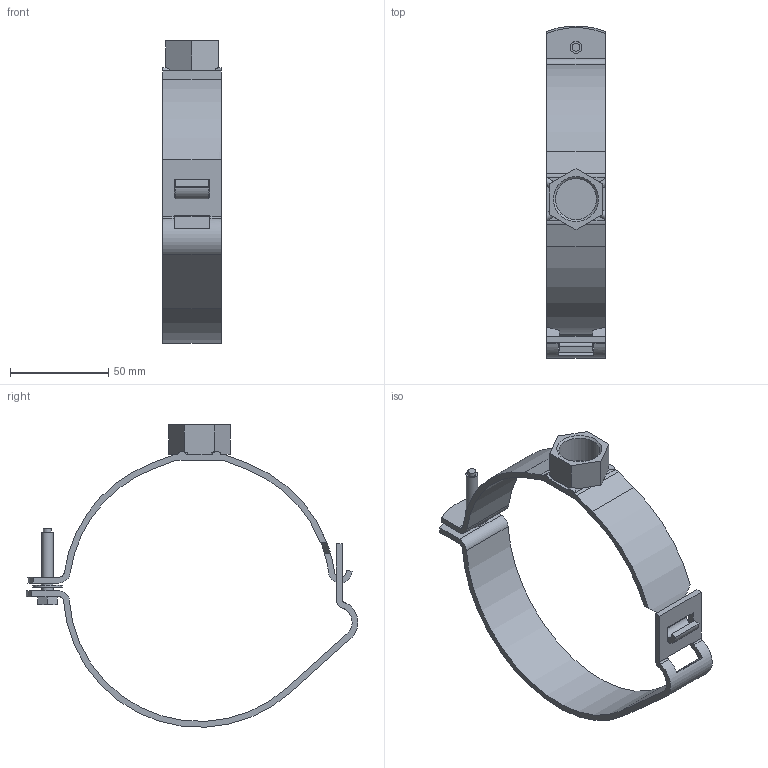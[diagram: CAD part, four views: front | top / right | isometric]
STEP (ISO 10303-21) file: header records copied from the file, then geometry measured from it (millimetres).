
FILE_DESCRIPTION(/* description */ (''),/* implementation_level */ '2;1');
FILE_NAME(/* name */ 'H:\Geberit-Teile\Export\368.841.00.2\stp\368841.stp',/* time_stamp */ '2016-03-14T12:19:13+01:00',/* author */ ('seihe2'),/* organization */ (''),/* preprocessor_version */ 'ST-DEVELOPER v15.2',/* originating_system */ 'Autodesk Inventor 2014',/* authorisation */ '');
FILE_SCHEMA (('AUTOMOTIVE_DESIGN { 1 0 10303 214 3 1 1 }'));
Length unit declared in the file: millimetre
Products named in the file (1): 368841
Bounding box: 30 x 169.18 x 154.13 mm (x, y, z)
Volume: 47968.2 mm3; surface area: 35450.7 mm2
Topology: 1 solids, 1 shells, 103 faces, 287 edges, 189 vertices
Faces by surface type: plane 65, cylinder 33, bspline 4, cone 1
Full cylindrical faces by diameter (mm): 4 x1, 6 x3, 15 x1, 20.955 x1
Entity records: 3428 total; most frequent: CARTESIAN_POINT 605, DIRECTION 571, ORIENTED_EDGE 556, EDGE_CURVE 278, AXIS2_PLACEMENT_3D 193, VERTEX_POINT 187, LINE 185, VECTOR 185
